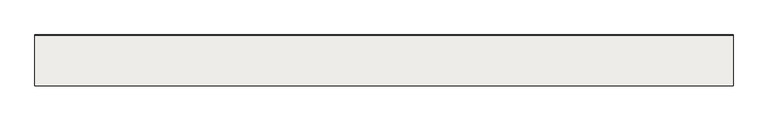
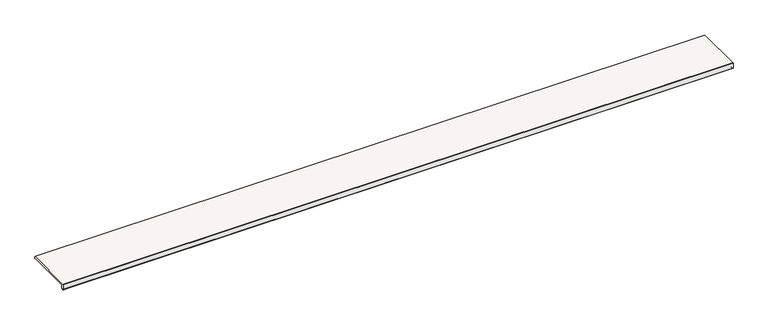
"""IFC4 building model written with IfcOpenShell, lengths in millimetres: slab geometry, ROSA GRES_L62 : Pieza L62_Pietro_White_Anti-Slip."""

from ifc_helpers import new_model, si_unit, point, frame, frame_2d, origin, place, context, project, spatial, polyline, circle_curve, trimmed, segment, composite_curve, outline, extrude, source, transform, mapped, element, save


def slab_5c20299a(model_context):
    return source(origin(), model_context, "Body", "SweptSolid", [
        extrude(outline(composite_curve([segment(polyline([(12.1001991, -37.0), (9.4054777, -37.0)]), True, "CONTINUOUS"), segment(trimmed(circle_curve(frame_2d((7.4142134, -37.0)), 1.9912643), [point((9.4054777, -37.0))], [point((5.422949, -37.0))], True, "CARTESIAN"), True, "CONTINUOUS"), segment(polyline([(5.422949, -37.0), (2.5, -37.0)]), True, "CONTINUOUS"), segment(trimmed(circle_curve(frame_2d((2.5, -34.5)), 2.5), [point((2.5, -37.0))], [point((0.0, -34.5))], False, "CARTESIAN"), True, "CONTINUOUS"), segment(polyline([(0.0, -34.5), (0.0, -2.5), (2.5, 0.0), (315.5, 0.0), (317.0, -2.5), (317.0, -12.4648352)]), True, "CONTINUOUS"), segment(trimmed(circle_curve(frame_2d((315.5234432, -12.4648352)), 1.4765568), [point((317.0, -12.4648352))], [point((315.5234432, -13.9413919))], False, "CARTESIAN"), True, "CONTINUOUS"), segment(polyline([(315.5234432, -13.9413919), (16.6422322, -13.9413919)]), True, "CONTINUOUS"), segment(trimmed(circle_curve(frame_2d((16.6422322, -16.5836242)), 2.6422322), [point((16.6422322, -13.9413919))], [point((14.0, -16.5836242))], True, "CARTESIAN"), True, "CONTINUOUS"), segment(polyline([(14.0, -16.5836242), (14.0, -35.1001991)]), True, "CONTINUOUS"), segment(trimmed(circle_curve(frame_2d((12.1001991, -35.1001991)), 1.8998009), [point((14.0, -35.1001991))], [point((12.1001991, -37.0))], False, "CARTESIAN"), True, "CONTINUOUS")], self_intersect=False)), frame((0.0, 0.0, 0.0), z_axis=(1.0, 0.0, 0.0), x_axis=(0.0, 1.0, 0.0)), (0.0, 0.0, 1.0), 4337.5),
    ])


if __name__ == "__main__":
    model = new_model("IFC4")
    model_context = context("Model", 3, world=origin())
    ifc_project = project(units=[si_unit("LENGTHUNIT", "METRE", prefix="MILLI")], contexts=[model_context])
    site = spatial("IfcSite", under=ifc_project)
    building = spatial("IfcBuilding", under=site)
    placement = place(None, origin())
    slab_shape = slab_5c20299a(model_context)
    element("IfcSlab", 1, ObjectType="ROSA GRES_L62 : Pieza L62_Pietro_White_Anti-Slip", at=placement, inside=building, context=model_context, shape_type="MappedRepresentation", body=[
        mapped(slab_shape, transform((0.0, 0.0, 0.0), x_axis=(1.0, 0.0, 0.0), y_axis=(0.0, 1.0, 0.0), z_axis=(0.0, 0.0, 1.0))),
    ])
    save(model, "model.ifc")
